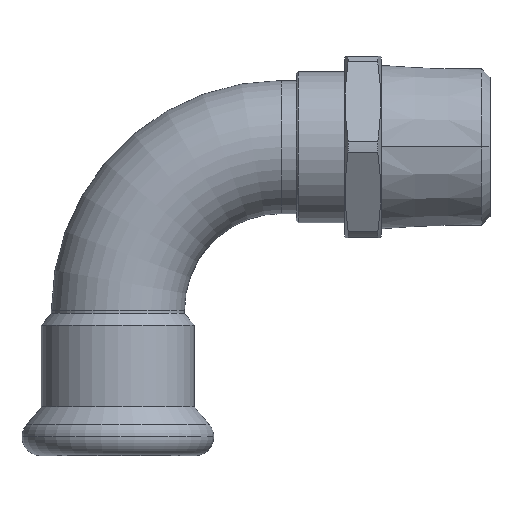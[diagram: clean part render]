
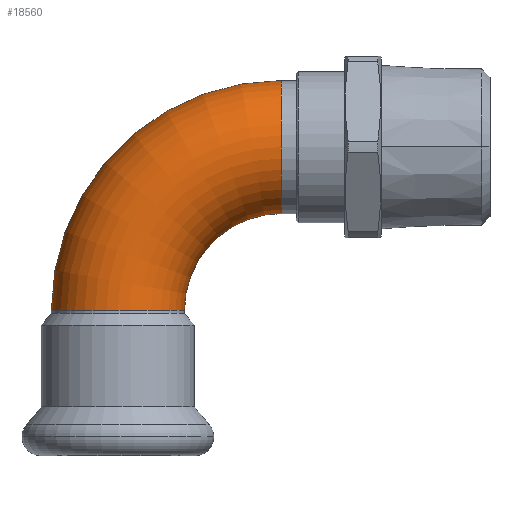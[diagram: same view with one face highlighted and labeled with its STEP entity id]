
A CAD part, top view. The second image highlights one B-rep face of the part: STEP entity #18560.
In plain terms, the highlighted toroidal (fillet/blend) face has major radius 27 mm and minor radius 11 mm.
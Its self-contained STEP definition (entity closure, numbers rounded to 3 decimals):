
#14700=CARTESIAN_POINT('',(-102.071,-225.006,
0.));
#14710=VERTEX_POINT('',#14700);
#14760=CARTESIAN_POINT('',(-113.071,-225.006,
0.));
#14770=DIRECTION('',(0.,-1.,0.));
#14780=DIRECTION('',(1.,0.,0.));
#14790=AXIS2_PLACEMENT_3D('',#14760,#14770,#14780);
#14800=CIRCLE('',#14790,11.);
#14810=CARTESIAN_POINT('',(-124.071,-225.006,
0.));
#14820=VERTEX_POINT('',#14810);
#15120=CARTESIAN_POINT('',(-86.071,-209.006,
0.));
#15130=VERTEX_POINT('',#15120);
#15210=CARTESIAN_POINT('',(-86.071,-187.006,
0.));
#15220=VERTEX_POINT('',#15210);
#15350=CARTESIAN_POINT('',(-86.071,-225.006,
0.));
#15360=DIRECTION('',(0.,0.,1.));
#15370=DIRECTION('',(0.,1.,0.));
#15380=AXIS2_PLACEMENT_3D('',#15350,#15360,#15370);
#15390=TOROIDAL_SURFACE('',#15380,27.,11.);
#15400=CARTESIAN_POINT('',(-86.071,-225.006,
0.));
#15410=DIRECTION('',(0.,0.,1.));
#15420=DIRECTION('',(0.,1.,0.));
#15430=AXIS2_PLACEMENT_3D('',#15400,#15410,#15420);
#15440=CIRCLE('',#15430,16.);
#15450=EDGE_CURVE('',#15130,#14710,#15440,.T.);
#15480=CARTESIAN_POINT('',(-86.071,-225.006,
0.));
#15490=DIRECTION('',(0.,0.,1.));
#15500=DIRECTION('',(0.,1.,0.));
#15510=AXIS2_PLACEMENT_3D('',#15480,#15490,#15500);
#15520=CIRCLE('',#15510,38.);
#15530=EDGE_CURVE('',#15220,#14820,#15520,.T.);
#18430=EDGE_CURVE('',#14710,#14820,#14800,.T.);
#18440=ORIENTED_EDGE('',*,*,#18430,.F.);
#18450=ORIENTED_EDGE('',*,*,#15530,.T.);
#18460=CARTESIAN_POINT('',(-86.071,-198.006,
0.));
#18470=DIRECTION('',(-1.,0.,0.));
#18480=DIRECTION('',(0.,-1.,0.));
#18490=AXIS2_PLACEMENT_3D('',#18460,#18470,#18480);
#18500=CIRCLE('',#18490,11.);
#18510=EDGE_CURVE('',#15130,#15220,#18500,.T.);
#18520=ORIENTED_EDGE('',*,*,#18510,.T.);
#18530=ORIENTED_EDGE('',*,*,#15450,.F.);
#18540=EDGE_LOOP('',(#18530,#18520,#18450,#18440));
#18550=FACE_OUTER_BOUND('',#18540,.T.);
#18560=ADVANCED_FACE('',(#18550),#15390,.T.);
